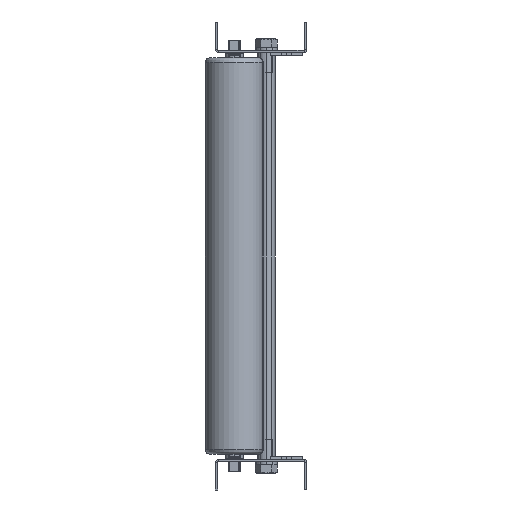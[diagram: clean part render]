
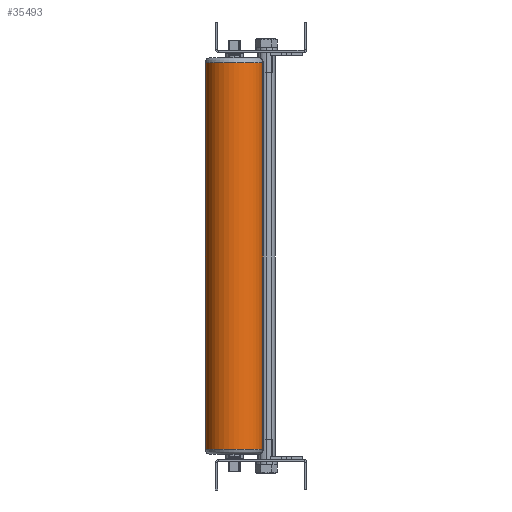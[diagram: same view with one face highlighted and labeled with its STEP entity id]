
A CAD part, left-side view. The second image highlights one B-rep face of the part: STEP entity #35493.
In plain terms, the highlighted cylindrical face has radius 28.6 mm (diameter 57.2 mm), a partial arc.
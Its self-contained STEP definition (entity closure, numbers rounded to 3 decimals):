
#1197 = EDGE_CURVE ( 'NONE', #38478, #32121, #4624, .T. ) ;
#2131 = AXIS2_PLACEMENT_3D ( 'NONE', #37937, #25653, #12143 ) ;
#4624 = LINE ( 'NONE', #16636, #29681 ) ;
#7693 = DIRECTION ( 'NONE',  ( 0., 0., 1. ) ) ;
#8919 = EDGE_CURVE ( 'NONE', #28299, #10394, #47632, .T. ) ;
#10394 = VERTEX_POINT ( 'NONE', #37290 ) ;
#10648 = ORIENTED_EDGE ( 'NONE', *, *, #1197, .T. ) ;
#11113 = CARTESIAN_POINT ( 'NONE',  ( -1231.758, 263.55, -24.1 ) ) ;
#11162 = AXIS2_PLACEMENT_3D ( 'NONE', #13393, #45148, #33418 ) ;
#11608 = DIRECTION ( 'NONE',  ( 0., 0., -1. ) ) ;
#12143 = DIRECTION ( 'NONE',  ( -0.167, 0.986, 0. ) ) ;
#12967 = ORIENTED_EDGE ( 'NONE', *, *, #41952, .T. ) ;
#13393 = CARTESIAN_POINT ( 'NONE',  ( -1226.99, 235.35, -19.1 ) ) ;
#14744 = DIRECTION ( 'NONE',  ( -0.167, 0.986, 0. ) ) ;
#16636 = CARTESIAN_POINT ( 'NONE',  ( -1231.758, 263.55, -19.1 ) ) ;
#21542 = CARTESIAN_POINT ( 'NONE',  ( -1231.758, 263.55, -404.1 ) ) ;
#22903 = AXIS2_PLACEMENT_3D ( 'NONE', #44244, #7693, #14744 ) ;
#23361 = ORIENTED_EDGE ( 'NONE', *, *, #48613, .T. ) ;
#25653 = DIRECTION ( 'NONE',  ( 0., 0., -1. ) ) ;
#27161 = CIRCLE ( 'NONE', #22903, 28.6 ) ;
#27197 = CARTESIAN_POINT ( 'NONE',  ( -1222.223, 207.15, -24.1 ) ) ;
#27351 = CARTESIAN_POINT ( 'NONE',  ( -1222.223, 207.15, -19.1 ) ) ;
#28299 = VERTEX_POINT ( 'NONE', #27197 ) ;
#28568 = EDGE_LOOP ( 'NONE', ( #23361, #10648, #12967, #39375 ) ) ;
#28874 = CYLINDRICAL_SURFACE ( 'NONE', #11162, 28.6 ) ;
#29681 = VECTOR ( 'NONE', #44902, 1000. ) ;
#31245 = VECTOR ( 'NONE', #11608, 1000. ) ;
#32121 = VERTEX_POINT ( 'NONE', #21542 ) ;
#32874 = FACE_OUTER_BOUND ( 'NONE', #28568, .T. ) ;
#33418 = DIRECTION ( 'NONE',  ( 0.167, -0.986, 0. ) ) ;
#35493 = ADVANCED_FACE ( 'NONE', ( #32874 ), #28874, .T. ) ;
#37290 = CARTESIAN_POINT ( 'NONE',  ( -1222.223, 207.15, -404.1 ) ) ;
#37937 = CARTESIAN_POINT ( 'NONE',  ( -1226.99, 235.35, -24.1 ) ) ;
#38478 = VERTEX_POINT ( 'NONE', #11113 ) ;
#39375 = ORIENTED_EDGE ( 'NONE', *, *, #8919, .F. ) ;
#41952 = EDGE_CURVE ( 'NONE', #32121, #10394, #27161, .T. ) ;
#44244 = CARTESIAN_POINT ( 'NONE',  ( -1226.99, 235.35, -404.1 ) ) ;
#44902 = DIRECTION ( 'NONE',  ( 0., 0., -1. ) ) ;
#45148 = DIRECTION ( 'NONE',  ( 0., 0., -1. ) ) ;
#47632 = LINE ( 'NONE', #27351, #31245 ) ;
#48613 = EDGE_CURVE ( 'NONE', #28299, #38478, #49860, .T. ) ;
#49860 = CIRCLE ( 'NONE', #2131, 28.6 ) ;
